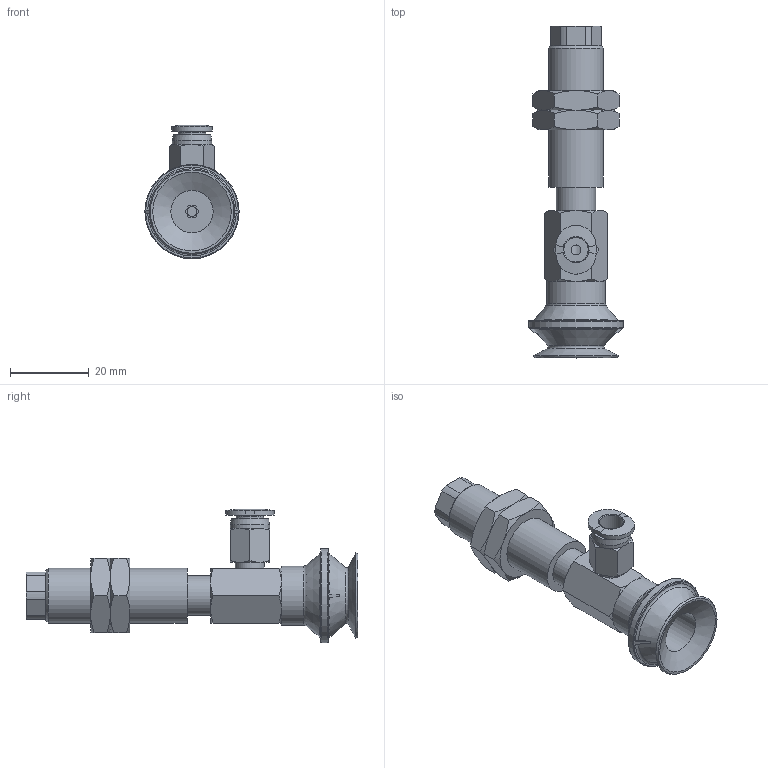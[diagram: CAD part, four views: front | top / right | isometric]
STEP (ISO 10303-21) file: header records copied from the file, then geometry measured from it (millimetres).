
FILE_DESCRIPTION(('STEP AP203'),'1');
FILE_NAME('-O.stp','2025-04-02T00:30:44',(' '),(' '),'Spatial InterOp 3D',' ',' ');
FILE_SCHEMA(('CONFIG_CONTROL_DESIGN'));
Length unit declared in the file: millimetre
Products named in the file (8): BNABPBYS-20-6-※-O; Adapter20-T-NAPB; CONNECTOR-20-6-PB; Nut-20-S-PB; NAPBTS-20-6--F; NAPBTS-20-6--M; BPBG-20-※; PC-C_06-M5
Assembly tree (8 placements, depth 2):
  BNABPBYS-20-6-※-O
    Adapter20-T-NAPB
    CONNECTOR-20-6-PB
    Nut-20-S-PB  x2
    NAPBTS-20-6--F
    NAPBTS-20-6--M
    BPBG-20-※
    PC-C_06-M5
Bounding box: 24 x 84.5 x 33.98 mm (x, y, z)
Volume: 14427.5 mm3; surface area: 12244.4 mm2
Topology: 7 solids, 10 shells, 206 faces, 442 edges, 270 vertices
Faces by surface type: plane 84, cone 72, cylinder 32, torus 11, bspline 4, revolution 3
Full cylindrical faces by diameter (mm): 2.5 x1, 3 x1, 4 x2, 4.134 x3, 4.6 x1, 5 x3, 7 x1, 7.4 x1, 8.2 x1, 10 x3, 10.8 x1, 11 x1, 12.917 x2, 14 x1, 15 x1, 24 x1
Entity records: 5496 total; most frequent: CARTESIAN_POINT 1469, DIRECTION 765, ORIENTED_EDGE 658, EDGE_CURVE 331, AXIS2_PLACEMENT_3D 329, EDGE_LOOP 264, VERTEX_POINT 231, FACE_OUTER_BOUND 155
